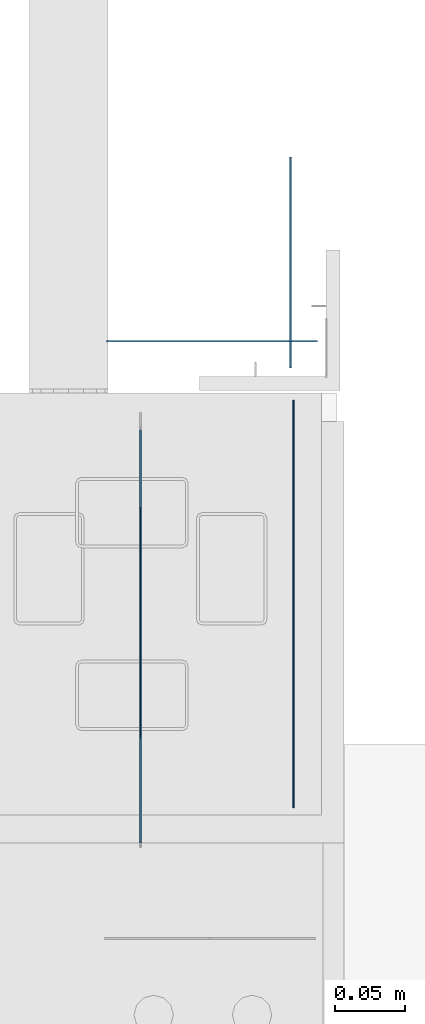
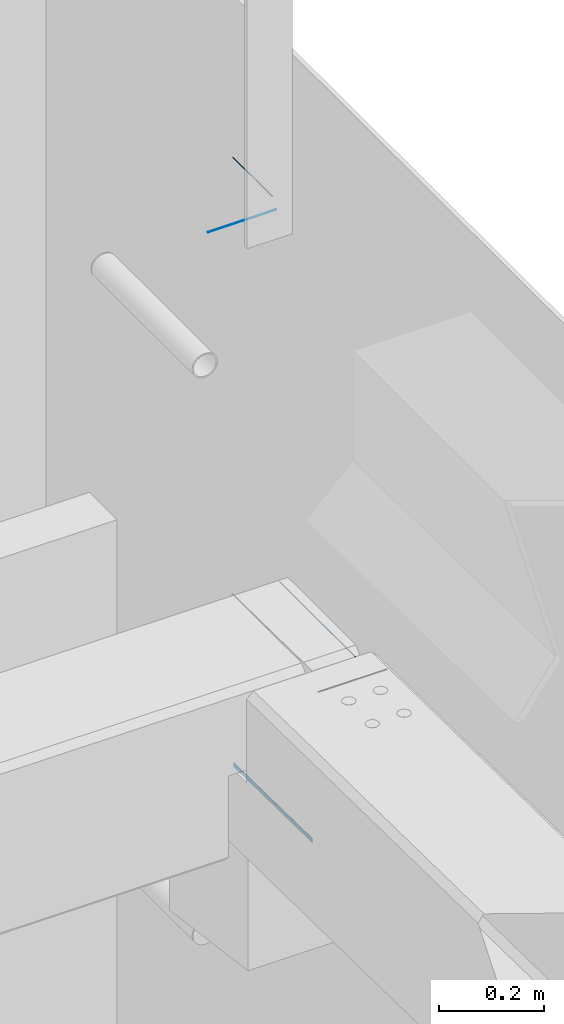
# One storey, part 32 of 186: 4 beams.
"""IFC4X3_ADD2 building model written with IfcOpenShell, lengths in millimetres."""

from ifc_helpers import new_model, si_unit, direction, frame, frame_2d, origin_with_axes, place, context, subcontext, project, spatial, rectangle, extrude, material, element, save


model = new_model("IFC4X3_ADD2")

# Units and contexts
model_context = context("Model", 3, precision=1e-05, world=origin_with_axes(), true_north=direction((0.0, 1.0)))
body_context = subcontext(model_context, "Body", "Model", "MODEL_VIEW")
ifc_project = project(units=[si_unit("LENGTHUNIT", "METRE", prefix="MILLI"), si_unit("AREAUNIT", "SQUARE_METRE"), si_unit("VOLUMEUNIT", "CUBIC_METRE"), si_unit("PLANEANGLEUNIT", "RADIAN"), si_unit("TIMEUNIT", "SECOND"), si_unit("MASSUNIT", "GRAM")], contexts=[model_context])

# Site, building, storey
site_placement = place(None, origin_with_axes())
site = spatial("IfcSite", under=ifc_project, at=site_placement, Name="Site", CompositionType="ELEMENT")
building_placement = place(site_placement, origin_with_axes())
building = spatial("IfcBuilding", under=site, at=building_placement, Name="IFC Building Story")
storey_placement = place(building_placement, frame((0.0, 0.0, 4370.0), z_axis=(0.0, 0.0, 1.0), x_axis=(1.0, 0.0, 0.0)))
storey = spatial("IfcBuildingStorey", under=building, at=storey_placement, Name="ETAGE 10 (1)", Elevation=4370.0)

# Beams
ifc_material_1 = material(Name="STEEL/Accessory_invisible")
beam_1_placement = place(storey_placement, frame((48468.688, 92.9999999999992, 4019.5), z_axis=(1.0, 0.0, 0.0), x_axis=(0.0, 0.0, -1.0)))
element("IfcBeam", 1, at=beam_1_placement, inside=storey, material=ifc_material_1, Name="RH14", ObjectType="1*1 6", context=body_context, shape_type="SweptSolid", body=[
    extrude(rectangle(XDim=0.9999999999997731, YDim=150.000000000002, at=frame_2d((0.0, 5.95523630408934e-12), x_axis=(1.0, 0.0))), origin_with_axes(), (0.0, 0.0, 1.0), 1.0),
])
beam_2_placement = place(storey_placement, frame((48488.188, 37.0, 3970.5), z_axis=(-1.0, 0.0, 0.0), x_axis=(0.0, 1.0, 0.0)))
element("IfcBeam", 2, at=beam_2_placement, inside=storey, material=ifc_material_1, Name="RH14", ObjectType="1*1 3", context=body_context, shape_type="SweptSolid", body=[
    extrude(rectangle(XDim=0.9999999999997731, YDim=0.9999999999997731, at=frame_2d((0.0, 5.95523630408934e-12), x_axis=(1.0, 0.0))), origin_with_axes(), (0.0, 0.0, 1.0), 150.0),
])
beam_3_placement = place(storey_placement, frame((48470.6896988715, -150.06411034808, 3134.49958190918), z_axis=(1.0, 0.0, 0.0), x_axis=(0.0, 0.0, -1.0)))
element("IfcBeam", 3, at=beam_3_placement, inside=storey, material=ifc_material_1, Name="ZW3", ObjectType="1*1 11", context=body_context, shape_type="SweptSolid", body=[
    extrude(rectangle(XDim=0.9999999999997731, YDim=289.900000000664, at=frame_2d((0.0, 5.95523630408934e-12), x_axis=(1.0, 0.0))), origin_with_axes(), (0.0, 0.0, 1.0), 1.0),
])
ifc_material_2 = material(Name="STEEL/Accessory_invisible 261")
beam_4_placement = place(storey_placement, frame((48361.6886994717, -169.922036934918, 2757.28116132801), z_axis=(1.0, 0.0, 0.0), x_axis=(0.0, 0.01553419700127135, 0.9998793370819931)))
element("IfcBeam", 4, at=beam_4_placement, inside=storey, material=ifc_material_2, Name="BEK4", ObjectType="10*1", context=body_context, shape_type="SweptSolid", body=[
    extrude(rectangle(XDim=9.999999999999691, YDim=300.036218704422, at=frame_2d((0.0, 5.95523630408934e-12), x_axis=(1.0, 0.0))), origin_with_axes(), (0.0, 0.0, 1.0), 1.0),
])

save(model, "model.ifc")
